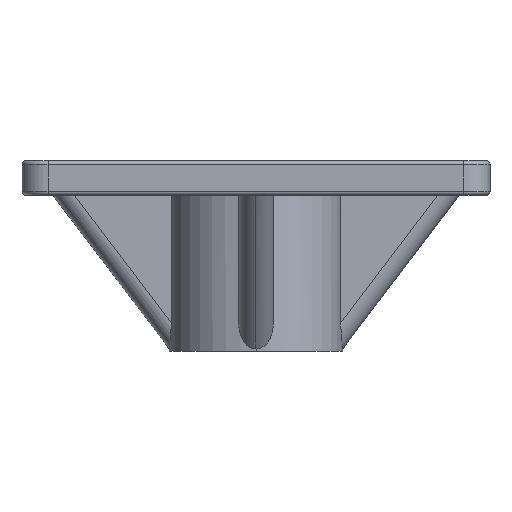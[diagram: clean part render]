
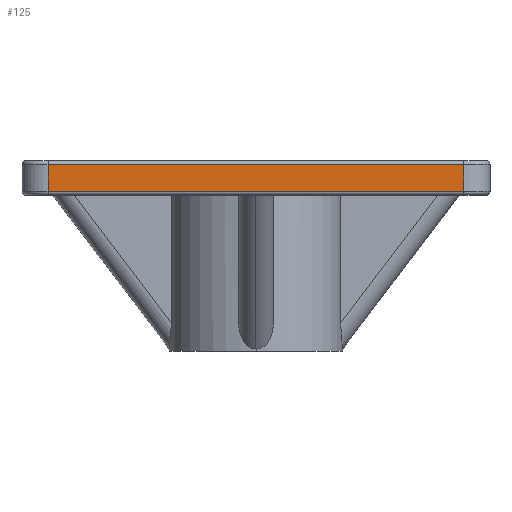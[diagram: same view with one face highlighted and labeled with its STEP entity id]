
A CAD part, front view. The second image highlights one B-rep face of the part: STEP entity #125.
In plain terms, the highlighted planar face has unit normal (0, -1, 0).
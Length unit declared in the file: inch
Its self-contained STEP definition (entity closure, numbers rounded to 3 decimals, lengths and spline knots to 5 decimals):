
#45 = LINE ( 'NONE', #503, #760 ) ;
#125 = ADVANCED_FACE ( 'NONE', ( #1316 ), #563, .T. ) ;
#259 = ORIENTED_EDGE ( 'NONE', *, *, #674, .T. ) ;
#482 = LINE ( 'NONE', #1816, #1638 ) ;
#483 = VERTEX_POINT ( 'NONE', #1778 ) ;
#487 = VECTOR ( 'NONE', #1013, 39.37008 ) ;
#503 = CARTESIAN_POINT ( 'NONE',  ( 1.5, -1.6875, -0.03 ) ) ;
#538 = DIRECTION ( 'NONE',  ( 0., 0., -1. ) ) ;
#554 = DIRECTION ( 'NONE',  ( 0., -1., 0. ) ) ;
#563 = PLANE ( 'NONE',  #740 ) ;
#636 = CARTESIAN_POINT ( 'NONE',  ( 1.5, -1.6875, -0.25 ) ) ;
#674 = EDGE_CURVE ( 'NONE', #1709, #1392, #1532, .T. ) ;
#695 = CARTESIAN_POINT ( 'NONE',  ( 1.5, -1.6875, -0.22 ) ) ;
#740 = AXIS2_PLACEMENT_3D ( 'NONE', #636, #554, #538 ) ;
#760 = VECTOR ( 'NONE', #976, 39.37008 ) ;
#819 = EDGE_CURVE ( 'NONE', #483, #1709, #1291, .T. ) ;
#859 = ORIENTED_EDGE ( 'NONE', *, *, #819, .T. ) ;
#897 = EDGE_CURVE ( 'NONE', #1512, #483, #45, .T. ) ;
#954 = EDGE_LOOP ( 'NONE', ( #1619, #1551, #859, #259 ) ) ;
#976 = DIRECTION ( 'NONE',  ( -1., 0., 0. ) ) ;
#1013 = DIRECTION ( 'NONE',  ( 0., 0., -1. ) ) ;
#1032 = CARTESIAN_POINT ( 'NONE',  ( 1.5, -1.6875, -0.22 ) ) ;
#1132 = VECTOR ( 'NONE', #1752, 39.37008 ) ;
#1291 = LINE ( 'NONE', #1586, #487 ) ;
#1316 = FACE_OUTER_BOUND ( 'NONE', #954, .T. ) ;
#1360 = DIRECTION ( 'NONE',  ( 0., 0., 1. ) ) ;
#1392 = VERTEX_POINT ( 'NONE', #1032 ) ;
#1512 = VERTEX_POINT ( 'NONE', #1529 ) ;
#1529 = CARTESIAN_POINT ( 'NONE',  ( 1.5, -1.6875, -0.03 ) ) ;
#1532 = LINE ( 'NONE', #695, #1132 ) ;
#1551 = ORIENTED_EDGE ( 'NONE', *, *, #897, .T. ) ;
#1586 = CARTESIAN_POINT ( 'NONE',  ( -1.5, -1.6875, -0.25 ) ) ;
#1619 = ORIENTED_EDGE ( 'NONE', *, *, #1927, .T. ) ;
#1638 = VECTOR ( 'NONE', #1360, 39.37008 ) ;
#1706 = CARTESIAN_POINT ( 'NONE',  ( -1.5, -1.6875, -0.22 ) ) ;
#1709 = VERTEX_POINT ( 'NONE', #1706 ) ;
#1752 = DIRECTION ( 'NONE',  ( 1., 0., 0. ) ) ;
#1778 = CARTESIAN_POINT ( 'NONE',  ( -1.5, -1.6875, -0.03 ) ) ;
#1816 = CARTESIAN_POINT ( 'NONE',  ( 1.5, -1.6875, -0.25 ) ) ;
#1927 = EDGE_CURVE ( 'NONE', #1392, #1512, #482, .T. ) ;
